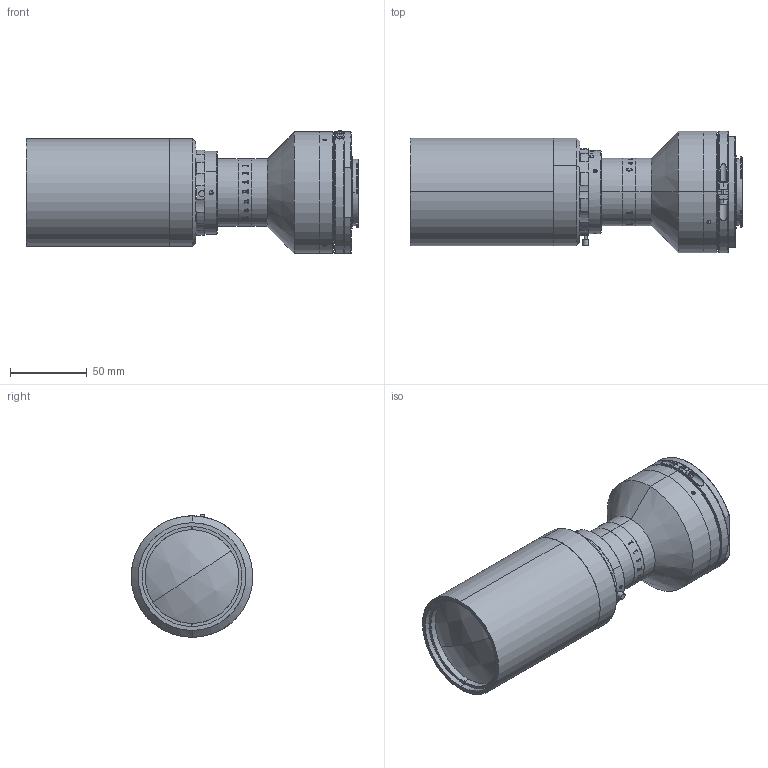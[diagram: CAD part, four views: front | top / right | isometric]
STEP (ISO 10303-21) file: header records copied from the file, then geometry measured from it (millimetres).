
FILE_DESCRIPTION (( 'STEP AP203' ), '1' );
FILE_NAME ('XF-PTL04529-F-VI.STEP', '2020-05-09T01:31:17', ( 'puyufan' ), ( '' ), 'SwSTEP 2.0', 'SolidWorks 2014', '' );
FILE_SCHEMA (( 'CONFIG_CONTROL_DESIGN' ));
Length unit declared in the file: millimetre
Products named in the file (1): XF-PTL04529-F-VI
Bounding box: 215.84 x 79 x 79.75 mm (x, y, z)
Surface area: 78595.9 mm2 (no closed solid volume)
Topology: 0 solids, 41 shells, 273 faces, 1371 edges, 1128 vertices
Faces by surface type: cylinder 127, plane 82, cone 42, bspline 10, torus 8, sphere 4
Entity records: 22264 total; most frequent: CARTESIAN_POINT 12061, DIRECTION 1953, ORIENTED_EDGE 1847, EDGE_CURVE 1365, VERTEX_POINT 1128, AXIS2_PLACEMENT_3D 752, CIRCLE 488, LINE 449
